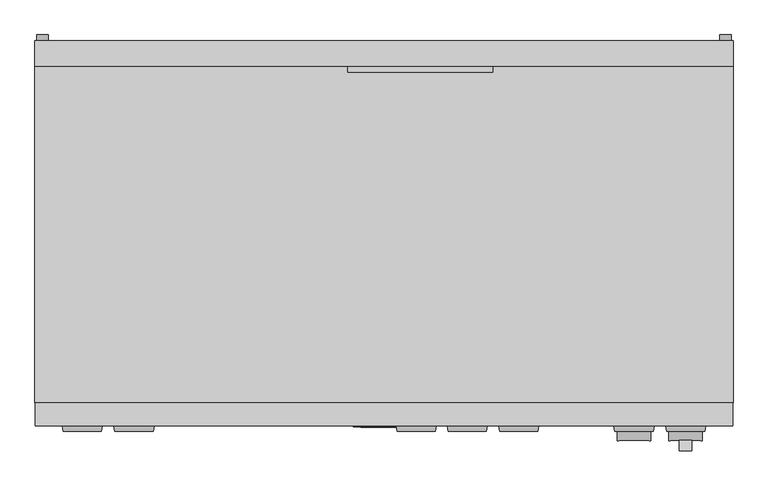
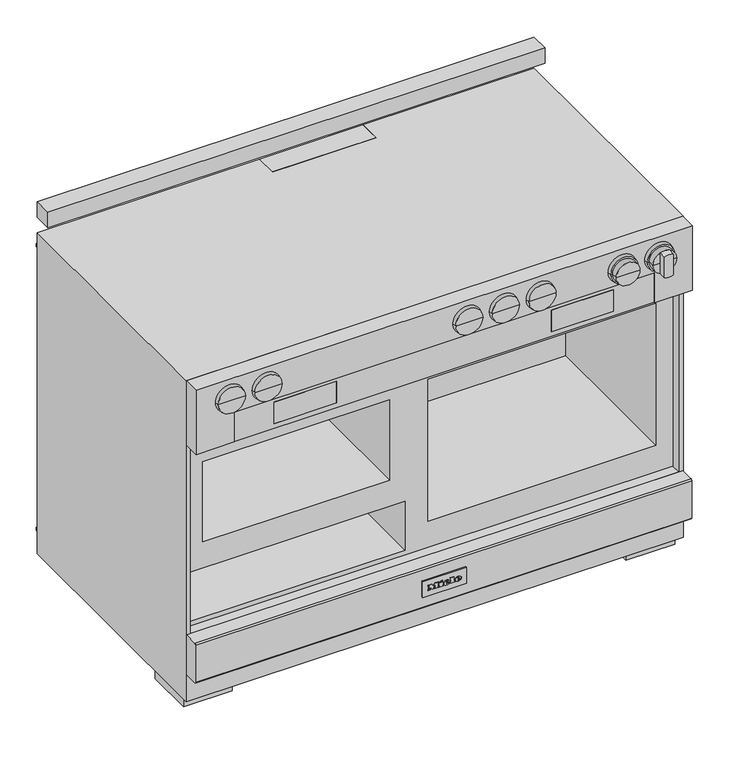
"""IFC4 building model written with IfcOpenShell, lengths in millimetres: proxy geometry, 11791700_USA_HR1956-3G_EDST-CLST : 25195681_USA_11791700_HR1956-3G_EDST-CLST."""

from ifc_helpers import new_model, si_unit, point, frame, frame_2d, origin, origin_with_axes, place, context, project, spatial, polyline, circle_curve, ellipse_curve, trimmed, segment, composite_curve, outline, extrude, faceted_brep, source, transform, mapped, element, save
from ifc_brep_helpers import plane_surface, cylinder_surface, revolved_surface, extruded_surface, advanced_brep


def specialty_equipment_941c495b(model_context):
    return source(origin(), model_context, "Body", "SolidModel", [
        advanced_brep(
        [(436.5, -683.0, 813.0), (465.5, -683.0, 813.0), (407.5, -683.0, 813.0), (407.5, -699.0, 813.0), (465.5, -699.0, 813.0), (436.5, -699.0, 813.0)],
        [
            (0, 1),
            (1, 2, circle_curve(frame((436.5, -683.0, 813.0), z_axis=(0.0, 1.0, 0.0), x_axis=(1.0, 0.0, 0.0)), 29.0)),
            (2, 0),
            (2, 1, circle_curve(frame((436.5, -683.0, 813.0), z_axis=(0.0, 1.0, 0.0), x_axis=(1.0, 0.0, 0.0)), 29.0)),
            (3, 4, circle_curve(frame((436.5, -699.0, 813.0), z_axis=(0.0, -1.0, 0.0), x_axis=(1.0, 0.0, 0.0)), 29.0)),
            (4, 5),
            (5, 3),
            (4, 3, circle_curve(frame((436.5, -699.0, 813.0), z_axis=(0.0, -1.0, 0.0), x_axis=(1.0, 0.0, 0.0)), 29.0)),
            (1, 4),
            (3, 2),
        ],
        [
            plane_surface(frame((436.5, -683.0, 813.0), z_axis=(0.0, 1.0, 0.0), x_axis=(1.0, 0.0, 0.0))),
            plane_surface(frame((436.5, -699.0, 813.0), z_axis=(0.0, -1.0, 0.0), x_axis=(1.0, 0.0, 0.0))),
            cylinder_surface(frame((436.5, 751.3738435, 813.0), z_axis=(0.0, 1.0, 0.0), x_axis=(1.0, 0.0, 0.0)), 29.0),
        ],
        [
            (0, [[1, 2, 3]]),
            (0, [[-3, 4, -1]]),
            (1, [[5, 6, 7]]),
            (1, [[8, -7, -6]]),
            (2, [[-2, 9, -5, 10]]),
            (2, [[-4, -10, -8, -9]]),
        ],
    ),
        extrude(outline(composite_curve([segment(polyline([(786.1671843, 537.5), (839.8328157, 537.5)]), True, "CONTINUOUS"), segment(trimmed(circle_curve(frame_2d((813.0, 526.5)), 29.0), [point((839.8328157, 537.5))], [point((839.8328157, 515.5))], False, "CARTESIAN"), True, "CONTINUOUS"), segment(polyline([(839.8328157, 515.5), (786.1671843, 515.5)]), True, "CONTINUOUS"), segment(trimmed(circle_curve(frame_2d((813.0, 526.5)), 29.0), [point((786.1671843, 515.5))], [point((786.1671843, 537.5))], False, "CARTESIAN"), True, "CONTINUOUS")], self_intersect=False)), frame((0.0, -717.0, 0.0), z_axis=(0.0, 1.0, 0.0), x_axis=(0.0, 0.0, 1.0)), (0.0, 0.0, 1.0), 18.0),
        advanced_brep(
        [(526.5, -683.0, 813.0), (555.5, -683.0, 813.0), (497.5, -683.0, 813.0), (497.5, -699.0, 813.0), (555.5, -699.0, 813.0), (526.5, -699.0, 813.0)],
        [
            (0, 1),
            (1, 2, circle_curve(frame((526.5, -683.0, 813.0), z_axis=(0.0, 1.0, 0.0), x_axis=(1.0, 0.0, 0.0)), 29.0)),
            (2, 0),
            (2, 1, circle_curve(frame((526.5, -683.0, 813.0), z_axis=(0.0, 1.0, 0.0), x_axis=(1.0, 0.0, 0.0)), 29.0)),
            (3, 4, circle_curve(frame((526.5, -699.0, 813.0), z_axis=(0.0, -1.0, 0.0), x_axis=(1.0, 0.0, 0.0)), 29.0)),
            (4, 5),
            (5, 3),
            (4, 3, circle_curve(frame((526.5, -699.0, 813.0), z_axis=(0.0, -1.0, 0.0), x_axis=(1.0, 0.0, 0.0)), 29.0)),
            (1, 4),
            (3, 2),
        ],
        [
            plane_surface(frame((526.5, -683.0, 813.0), z_axis=(0.0, 1.0, 0.0), x_axis=(1.0, 0.0, 0.0))),
            plane_surface(frame((526.5, -699.0, 813.0), z_axis=(0.0, -1.0, 0.0), x_axis=(1.0, 0.0, 0.0))),
            cylinder_surface(frame((526.5, 751.3738435, 813.0), z_axis=(0.0, 1.0, 0.0), x_axis=(1.0, 0.0, 0.0)), 29.0),
        ],
        [
            (0, [[1, 2, 3]]),
            (0, [[-3, 4, -1]]),
            (1, [[5, 6, 7]]),
            (1, [[8, -7, -6]]),
            (2, [[-2, 9, -5, 10]]),
            (2, [[-4, -10, -8, -9]]),
        ],
    ),
        extrude(outline(polyline([(-263.5, -671.7), (-416.5, -671.7), (-416.5, -670.7), (-263.5, -670.7), (-263.5, -671.7)])), frame((0.0, 0.0, 707.0), z_axis=(0.0, 0.0, 1.0), x_axis=(1.0, 0.0, 0.0)), (0.0, 0.0, 1.0), 56.0),
        extrude(outline(polyline([(416.5, -671.7), (263.5, -671.7), (263.5, -670.7), (416.5, -670.7), (416.5, -671.7)])), frame((0.0, 0.0, 707.0), z_axis=(0.0, 0.0, 1.0), x_axis=(1.0, 0.0, 0.0)), (0.0, 0.0, 1.0), 56.0),
        extrude(outline(polyline([(772.0, 515.5), (772.0, -515.5), (695.0, -515.5), (695.0, 515.5), (772.0, 515.5)]), holes=[polyline([(763.0, -263.5), (707.0, -263.5), (707.0, -416.5), (763.0, -416.5), (763.0, -263.5)]), polyline([(763.0, 416.5), (707.0, 416.5), (707.0, 263.5), (763.0, 263.5), (763.0, 416.5)])]), frame((0.0, -671.7, 0.0), z_axis=(0.0, 1.0, 0.0), x_axis=(0.0, 0.0, 1.0)), (0.0, 0.0, 1.0), 5.0),
        faceted_brep([(608.5, -673.0, 862.0), (-608.5, -673.0, 862.0), (-608.5, -673.0, 695.0), (-515.5, -673.0, 695.0), (-515.5, -673.0, 772.0), (515.5, -673.0, 772.0), (515.5, -673.0, 695.0), (608.5, -673.0, 695.0), (608.5, -633.0, 862.0), (608.5, -633.0, 695.0), (-608.5, -633.0, 695.0), (-608.5, -633.0, 862.0), (515.5, -666.7, 695.0), (-515.5, -666.7, 695.0), (515.5, -666.7, 772.0), (-515.5, -666.7, 772.0)], [[[0, 1, 2, 3, 4, 5, 6, 7]], [[8, 9, 10, 11]], [[0, 7, 9, 8]], [[10, 9, 7, 6, 12, 13, 3, 2]], [[2, 1, 11, 10]], [[1, 0, 8, 11]], [[14, 15, 13, 12]], [[14, 12, 6, 5]], [[13, 15, 4, 3]], [[15, 14, 5, 4]]]),
        advanced_brep(
        [(22.7632698, -683.0, 813.0), (89.2367302, -683.0, 813.0), (56.0, -683.0, 813.0), (21.0, -673.0, 813.0), (91.0, -673.0, 813.0), (56.0, -673.0, 813.0)],
        [
            (0, 1, circle_curve(frame((56.0, -683.0, 813.0), z_axis=(0.0, -1.0, 0.0), x_axis=(1.0, 0.0, 0.0)), 33.2367302)),
            (1, 2),
            (2, 0),
            (1, 0, circle_curve(frame((56.0, -683.0, 813.0), z_axis=(0.0, -1.0, 0.0), x_axis=(1.0, 0.0, 0.0)), 33.2367302)),
            (3, 4, circle_curve(frame((56.0, -673.0, 813.0), z_axis=(0.0, -1.0, 0.0), x_axis=(1.0, 0.0, 0.0)), 35.0)),
            (4, 1),
            (0, 3),
            (4, 3, circle_curve(frame((56.0, -673.0, 813.0), z_axis=(0.0, -1.0, 0.0), x_axis=(1.0, 0.0, 0.0)), 35.0)),
            (5, 4),
            (3, 5),
        ],
        [
            plane_surface(frame((56.0, -683.0, 813.0), z_axis=(0.0, -1.0, 0.0), x_axis=(1.0, 0.0, 0.0))),
            revolved_surface(polyline([(89.2367302, -683.0, 813.0), (91.0, -673.0, 813.0)]), (56.0, 751.3738435, 813.0), (0.0, 1.0, 0.0)),
            plane_surface(frame((56.0, -673.0, 813.0), z_axis=(0.0, 1.0, 0.0), x_axis=(1.0, 0.0, 0.0))),
        ],
        [
            (0, [[1, 2, 3]]),
            (0, [[4, -3, -2]]),
            (1, [[5, 6, -1, 7]]),
            (1, [[8, -7, -4, -6]]),
            (2, [[9, -5, 10]]),
            (2, [[-10, -8, -9]]),
        ],
    ),
        advanced_brep(
        [(112.2632698, -683.0, 813.0), (178.7367302, -683.0, 813.0), (145.5, -683.0, 813.0), (110.5, -673.0, 813.0), (180.5, -673.0, 813.0), (145.5, -673.0, 813.0)],
        [
            (0, 1, circle_curve(frame((145.5, -683.0, 813.0), z_axis=(0.0, -1.0, 0.0), x_axis=(1.0, 0.0, 0.0)), 33.2367302)),
            (1, 2),
            (2, 0),
            (1, 0, circle_curve(frame((145.5, -683.0, 813.0), z_axis=(0.0, -1.0, 0.0), x_axis=(1.0, 0.0, 0.0)), 33.2367302)),
            (3, 4, circle_curve(frame((145.5, -673.0, 813.0), z_axis=(0.0, -1.0, 0.0), x_axis=(1.0, 0.0, 0.0)), 35.0)),
            (4, 1),
            (0, 3),
            (4, 3, circle_curve(frame((145.5, -673.0, 813.0), z_axis=(0.0, -1.0, 0.0), x_axis=(1.0, 0.0, 0.0)), 35.0)),
            (5, 4),
            (3, 5),
        ],
        [
            plane_surface(frame((145.5, -683.0, 813.0), z_axis=(0.0, -1.0, 0.0), x_axis=(1.0, 0.0, 0.0))),
            revolved_surface(polyline([(178.7367302, -683.0, 813.0), (180.5, -673.0, 813.0)]), (145.5, 751.3738435, 813.0), (0.0, 1.0, 0.0)),
            plane_surface(frame((145.5, -673.0, 813.0), z_axis=(0.0, 1.0, 0.0), x_axis=(1.0, 0.0, 0.0))),
        ],
        [
            (0, [[1, 2, 3]]),
            (0, [[4, -3, -2]]),
            (1, [[5, 6, -1, 7]]),
            (1, [[8, -7, -4, -6]]),
            (2, [[9, -5, 10]]),
            (2, [[-10, -8, -9]]),
        ],
    ),
        advanced_brep(
        [(-559.7367302, -683.0, 813.0), (-493.2632698, -683.0, 813.0), (-526.5, -683.0, 813.0), (-561.5, -673.0, 813.0), (-491.5, -673.0, 813.0), (-526.5, -673.0, 813.0)],
        [
            (0, 1, circle_curve(frame((-526.5, -683.0, 813.0), z_axis=(0.0, -1.0, 0.0), x_axis=(1.0, 0.0, 0.0)), 33.2367302)),
            (1, 2),
            (2, 0),
            (1, 0, circle_curve(frame((-526.5, -683.0, 813.0), z_axis=(0.0, -1.0, 0.0), x_axis=(1.0, 0.0, 0.0)), 33.2367302)),
            (3, 4, circle_curve(frame((-526.5, -673.0, 813.0), z_axis=(0.0, -1.0, 0.0), x_axis=(1.0, 0.0, 0.0)), 35.0)),
            (4, 1),
            (0, 3),
            (4, 3, circle_curve(frame((-526.5, -673.0, 813.0), z_axis=(0.0, -1.0, 0.0), x_axis=(1.0, 0.0, 0.0)), 35.0)),
            (5, 4),
            (3, 5),
        ],
        [
            plane_surface(frame((-526.5, -683.0, 813.0), z_axis=(0.0, -1.0, 0.0), x_axis=(1.0, 0.0, 0.0))),
            revolved_surface(polyline([(-493.2632698, -683.0, 813.0), (-491.5, -673.0, 813.0)]), (-526.5, 751.3738435, 813.0), (0.0, 1.0, 0.0)),
            plane_surface(frame((-526.5, -673.0, 813.0), z_axis=(0.0, 1.0, 0.0), x_axis=(1.0, 0.0, 0.0))),
        ],
        [
            (0, [[1, 2, 3]]),
            (0, [[4, -3, -2]]),
            (1, [[5, 6, -1, 7]]),
            (1, [[8, -7, -4, -6]]),
            (2, [[9, -5, 10]]),
            (2, [[-10, -8, -9]]),
        ],
    ),
        advanced_brep(
        [(-469.7367302, -683.0, 813.0), (-403.2632698, -683.0, 813.0), (-436.5, -683.0, 813.0), (-471.5, -673.0, 813.0), (-401.5, -673.0, 813.0), (-436.5, -673.0, 813.0)],
        [
            (0, 1, circle_curve(frame((-436.5, -683.0, 813.0), z_axis=(0.0, -1.0, 0.0), x_axis=(1.0, 0.0, 0.0)), 33.2367302)),
            (1, 2),
            (2, 0),
            (1, 0, circle_curve(frame((-436.5, -683.0, 813.0), z_axis=(0.0, -1.0, 0.0), x_axis=(1.0, 0.0, 0.0)), 33.2367302)),
            (3, 4, circle_curve(frame((-436.5, -673.0, 813.0), z_axis=(0.0, -1.0, 0.0), x_axis=(1.0, 0.0, 0.0)), 35.0)),
            (4, 1),
            (0, 3),
            (4, 3, circle_curve(frame((-436.5, -673.0, 813.0), z_axis=(0.0, -1.0, 0.0), x_axis=(1.0, 0.0, 0.0)), 35.0)),
            (5, 4),
            (3, 5),
        ],
        [
            plane_surface(frame((-436.5, -683.0, 813.0), z_axis=(0.0, -1.0, 0.0), x_axis=(1.0, 0.0, 0.0))),
            revolved_surface(polyline([(-403.2632698, -683.0, 813.0), (-401.5, -673.0, 813.0)]), (-436.5, 751.3738435, 813.0), (0.0, 1.0, 0.0)),
            plane_surface(frame((-436.5, -673.0, 813.0), z_axis=(0.0, 1.0, 0.0), x_axis=(1.0, 0.0, 0.0))),
        ],
        [
            (0, [[1, 2, 3]]),
            (0, [[4, -3, -2]]),
            (1, [[5, 6, -1, 7]]),
            (1, [[8, -7, -4, -6]]),
            (2, [[9, -5, 10]]),
            (2, [[-10, -8, -9]]),
        ],
    ),
        advanced_brep(
        [(202.2632698, -683.0, 813.0), (268.7367302, -683.0, 813.0), (235.5, -683.0, 813.0), (200.5, -673.0, 813.0), (270.5, -673.0, 813.0), (235.5, -673.0, 813.0)],
        [
            (0, 1, circle_curve(frame((235.5, -683.0, 813.0), z_axis=(0.0, -1.0, 0.0), x_axis=(1.0, 0.0, 0.0)), 33.2367302)),
            (1, 2),
            (2, 0),
            (1, 0, circle_curve(frame((235.5, -683.0, 813.0), z_axis=(0.0, -1.0, 0.0), x_axis=(1.0, 0.0, 0.0)), 33.2367302)),
            (3, 4, circle_curve(frame((235.5, -673.0, 813.0), z_axis=(0.0, -1.0, 0.0), x_axis=(1.0, 0.0, 0.0)), 35.0)),
            (4, 1),
            (0, 3),
            (4, 3, circle_curve(frame((235.5, -673.0, 813.0), z_axis=(0.0, -1.0, 0.0), x_axis=(1.0, 0.0, 0.0)), 35.0)),
            (5, 4),
            (3, 5),
        ],
        [
            plane_surface(frame((235.5, -683.0, 813.0), z_axis=(0.0, -1.0, 0.0), x_axis=(1.0, 0.0, 0.0))),
            revolved_surface(polyline([(268.7367302, -683.0, 813.0), (270.5, -673.0, 813.0)]), (235.5, 751.3738435, 813.0), (0.0, 1.0, 0.0)),
            plane_surface(frame((235.5, -673.0, 813.0), z_axis=(0.0, 1.0, 0.0), x_axis=(1.0, 0.0, 0.0))),
        ],
        [
            (0, [[1, 2, 3]]),
            (0, [[4, -3, -2]]),
            (1, [[5, 6, -1, 7]]),
            (1, [[8, -7, -4, -6]]),
            (2, [[9, -5, 10]]),
            (2, [[-10, -8, -9]]),
        ],
    ),
        advanced_brep(
        [(403.2632698, -683.0, 813.0), (469.7367302, -683.0, 813.0), (436.5, -683.0, 813.0), (401.5, -673.0, 813.0), (471.5, -673.0, 813.0), (436.5, -673.0, 813.0)],
        [
            (0, 1, circle_curve(frame((436.5, -683.0, 813.0), z_axis=(0.0, -1.0, 0.0), x_axis=(1.0, 0.0, 0.0)), 33.2367302)),
            (1, 2),
            (2, 0),
            (1, 0, circle_curve(frame((436.5, -683.0, 813.0), z_axis=(0.0, -1.0, 0.0), x_axis=(1.0, 0.0, 0.0)), 33.2367302)),
            (3, 4, circle_curve(frame((436.5, -673.0, 813.0), z_axis=(0.0, -1.0, 0.0), x_axis=(1.0, 0.0, 0.0)), 35.0)),
            (4, 1),
            (0, 3),
            (4, 3, circle_curve(frame((436.5, -673.0, 813.0), z_axis=(0.0, -1.0, 0.0), x_axis=(1.0, 0.0, 0.0)), 35.0)),
            (5, 4),
            (3, 5),
        ],
        [
            plane_surface(frame((436.5, -683.0, 813.0), z_axis=(0.0, -1.0, 0.0), x_axis=(1.0, 0.0, 0.0))),
            revolved_surface(polyline([(469.7367302, -683.0, 813.0), (471.5, -673.0, 813.0)]), (436.5, 751.3738435, 813.0), (0.0, 1.0, 0.0)),
            plane_surface(frame((436.5, -673.0, 813.0), z_axis=(0.0, 1.0, 0.0), x_axis=(1.0, 0.0, 0.0))),
        ],
        [
            (0, [[1, 2, 3]]),
            (0, [[4, -3, -2]]),
            (1, [[5, 6, -1, 7]]),
            (1, [[8, -7, -4, -6]]),
            (2, [[9, -5, 10]]),
            (2, [[-10, -8, -9]]),
        ],
    ),
        advanced_brep(
        [(493.2632698, -683.0, 813.0), (559.7367302, -683.0, 813.0), (526.5, -683.0, 813.0), (491.5, -673.0, 813.0), (561.5, -673.0, 813.0), (526.5, -673.0, 813.0)],
        [
            (0, 1, circle_curve(frame((526.5, -683.0, 813.0), z_axis=(0.0, -1.0, 0.0), x_axis=(1.0, 0.0, 0.0)), 33.2367302)),
            (1, 2),
            (2, 0),
            (1, 0, circle_curve(frame((526.5, -683.0, 813.0), z_axis=(0.0, -1.0, 0.0), x_axis=(1.0, 0.0, 0.0)), 33.2367302)),
            (3, 4, circle_curve(frame((526.5, -673.0, 813.0), z_axis=(0.0, -1.0, 0.0), x_axis=(1.0, 0.0, 0.0)), 35.0)),
            (4, 1),
            (0, 3),
            (4, 3, circle_curve(frame((526.5, -673.0, 813.0), z_axis=(0.0, -1.0, 0.0), x_axis=(1.0, 0.0, 0.0)), 35.0)),
            (5, 4),
            (3, 5),
        ],
        [
            plane_surface(frame((526.5, -683.0, 813.0), z_axis=(0.0, -1.0, 0.0), x_axis=(1.0, 0.0, 0.0))),
            revolved_surface(polyline([(559.7367302, -683.0, 813.0), (561.5, -673.0, 813.0)]), (526.5, 751.3738435, 813.0), (0.0, 1.0, 0.0)),
            plane_surface(frame((526.5, -673.0, 813.0), z_axis=(0.0, 1.0, 0.0), x_axis=(1.0, 0.0, 0.0))),
        ],
        [
            (0, [[1, 2, 3]]),
            (0, [[4, -3, -2]]),
            (1, [[5, 6, -1, 7]]),
            (1, [[8, -7, -4, -6]]),
            (2, [[9, -5, 10]]),
            (2, [[-10, -8, -9]]),
        ],
    ),
        extrude(outline(composite_curve([segment(trimmed(circle_curve(frame_2d((822.0, 596.5)), 10.0), [point((822.0, 606.5))], [point((822.0, 586.5))], False, "CARTESIAN"), True, "CONTINUOUS"), segment(trimmed(circle_curve(frame_2d((822.0, 596.5)), 10.0), [point((822.0, 586.5))], [point((822.0, 606.5))], False, "CARTESIAN"), True, "CONTINUOUS")], self_intersect=False)), frame((0.0, 0.0, 0.0), z_axis=(0.0, 1.0, 0.0), x_axis=(0.0, 0.0, 1.0)), (0.0, 0.0, 1.0), 10.0),
        extrude(outline(composite_curve([segment(trimmed(circle_curve(frame_2d((87.0, 596.5)), 10.0), [point((87.0, 606.5))], [point((87.0, 586.5))], False, "CARTESIAN"), True, "CONTINUOUS"), segment(trimmed(circle_curve(frame_2d((87.0, 596.5)), 10.0), [point((87.0, 586.5))], [point((87.0, 606.5))], False, "CARTESIAN"), True, "CONTINUOUS")], self_intersect=False)), frame((0.0, 0.0, 0.0), z_axis=(0.0, 1.0, 0.0), x_axis=(0.0, 0.0, 1.0)), (0.0, 0.0, 1.0), 10.0),
        extrude(outline(composite_curve([segment(trimmed(circle_curve(frame_2d((822.0, -596.5)), 10.0), [point((822.0, -586.5))], [point((822.0, -606.5))], False, "CARTESIAN"), True, "CONTINUOUS"), segment(trimmed(circle_curve(frame_2d((822.0, -596.5)), 10.0), [point((822.0, -606.5))], [point((822.0, -586.5))], False, "CARTESIAN"), True, "CONTINUOUS")], self_intersect=False)), frame((0.0, 0.0, 0.0), z_axis=(0.0, 1.0, 0.0), x_axis=(0.0, 0.0, 1.0)), (0.0, 0.0, 1.0), 10.0),
        extrude(outline(composite_curve([segment(trimmed(circle_curve(frame_2d((87.0, -596.5)), 10.0), [point((87.0, -586.5))], [point((87.0, -606.5))], False, "CARTESIAN"), True, "CONTINUOUS"), segment(trimmed(circle_curve(frame_2d((87.0, -596.5)), 10.0), [point((87.0, -606.5))], [point((87.0, -586.5))], False, "CARTESIAN"), True, "CONTINUOUS")], self_intersect=False)), frame((0.0, 0.0, 0.0), z_axis=(0.0, 1.0, 0.0), x_axis=(0.0, 0.0, 1.0)), (0.0, 0.0, 1.0), 10.0),
        extrude(outline(polyline([(-63.5, 0.0), (189.5, 0.0), (189.5, -55.0), (-63.5, -55.0), (-63.5, 0.0)])), frame((0.0, 0.0, 778.0), z_axis=(0.0, 0.0, 1.0), x_axis=(1.0, 0.0, 0.0)), (0.0, 0.0, 1.0), 84.0),
        extrude(outline(composite_curve([segment(trimmed(circle_curve(frame_2d((-152.0, 40.0)), 40.0), [point((-113.2701665, 30.0))], [point((-190.7298335, 30.0))], False, "CARTESIAN"), True, "CONTINUOUS"), segment(polyline([(-190.7298335, 30.0), (-113.2701665, 30.0)]), True, "CONTINUOUS")], self_intersect=False)), frame((-462.5, 0.0, 0.0), z_axis=(1.0, 0.0, 0.0), x_axis=(0.0, 1.0, 0.0)), (0.0, 0.0, 1.0), 28.0),
        extrude(outline(composite_curve([segment(polyline([(-518.5009008, -37.0), (-519.7635363, -37.0), (-519.5191787, -35.9415709), (-519.3778726, -31.1117735)]), True, "CONTINUOUS"), segment(trimmed(circle_curve(frame_2d((-517.887549, -31.1553762)), 1.4909613), [point((-519.3778726, -31.1117735))], [point((-518.1381402, -29.6856246))], False, "CARTESIAN"), True, "CONTINUOUS"), segment(trimmed(circle_curve(frame_2d((-516.6175682, -34.7832301)), 5.3195602), [point((-518.1381402, -29.6856246))], [point((-514.940667, -29.7348914))], False, "CARTESIAN"), True, "CONTINUOUS"), segment(polyline([(-514.940667, -29.7348914), (-513.8643767, -30.4338425), (-513.3177226, -31.6616478), (-514.5710839, -31.8155412), (-515.1628147, -30.9704619)]), True, "CONTINUOUS"), segment(trimmed(circle_curve(frame_2d((-516.389909, -33.6278559)), 2.9270297), [point((-515.1628147, -30.9704619))], [point((-517.835883, -31.0829271))], True, "CARTESIAN"), True, "CONTINUOUS"), segment(polyline([(-517.835883, -31.0829271), (-518.1819155, -32.289686), (-514.9250607, -32.9227545)]), True, "CONTINUOUS"), segment(trimmed(circle_curve(frame_2d((-515.3373847, -35.0439776)), 2.1609254), [point((-514.9250607, -32.9227545))], [point((-513.7872437, -36.5495212))], False, "CARTESIAN"), True, "CONTINUOUS"), segment(trimmed(circle_curve(frame_2d((-515.7230106, -33.6941434)), 3.4496922), [point((-513.7872437, -36.5495212))], [point((-516.9810512, -36.9062626))], False, "CARTESIAN"), True, "CONTINUOUS"), segment(polyline([(-516.9810512, -36.9062626), (-518.1943945, -36.0566705), (-518.5009008, -37.0)]), True, "CONTINUOUS")], self_intersect=False), holes=[composite_curve([segment(polyline([(-518.1808047, -33.7241112), (-517.9778117, -34.8753414), (-517.1808418, -35.5929363), (-515.8846505, -35.8921857)]), True, "CONTINUOUS"), segment(trimmed(circle_curve(frame_2d((-515.6641539, -34.9371101)), 0.980198), [point((-515.8846505, -35.8921857))], [point((-515.0826105, -34.148063))], True, "CARTESIAN"), True, "CONTINUOUS"), segment(polyline([(-515.0826105, -34.148063), (-516.183896, -33.9339948), (-518.1808047, -33.7241112)]), True, "CONTINUOUS")], self_intersect=False)]), frame((0.0, 0.0, 753.0), z_axis=(0.0, 0.0, 1.0), x_axis=(1.0, 0.0, 0.0)), (0.0, 0.0, 1.0), 1.0),
        extrude(outline(composite_curve([segment(polyline([(-521.9581842, -34.6489066), (-520.702206, -34.8031213), (-521.6593436, -36.5606642)]), True, "CONTINUOUS"), segment(trimmed(circle_curve(frame_2d((-523.8057471, -33.6354063)), 3.6282478), [point((-521.6593436, -36.5606642))], [point((-525.3962663, -36.8964538))], False, "CARTESIAN"), True, "CONTINUOUS"), segment(trimmed(circle_curve(frame_2d((-524.2731504, -34.593725)), 2.5620205), [point((-525.3962663, -36.8964538))], [point((-526.82893, -34.7724425))], False, "CARTESIAN"), True, "CONTINUOUS"), segment(trimmed(circle_curve(frame_2d((-525.117737, -34.6527843)), 1.7153715), [point((-526.82893, -34.7724425))], [point((-525.647816, -33.021369))], False, "CARTESIAN"), True, "CONTINUOUS"), segment(polyline([(-525.647816, -33.021369), (-523.8069947, -32.4232499), (-522.487673, -30.9770867)]), True, "CONTINUOUS"), segment(trimmed(circle_curve(frame_2d((-523.6408399, -33.351197)), 2.6393548), [point((-522.487673, -30.9770867))], [point((-524.7940069, -30.9770867))], True, "CARTESIAN"), True, "CONTINUOUS"), segment(polyline([(-524.7940069, -30.9770867), (-525.2553884, -31.6611129), (-526.5084996, -31.5072502), (-526.0756304, -30.3795875)]), True, "CONTINUOUS"), segment(trimmed(circle_curve(frame_2d((-523.4527143, -33.6576461)), 4.1982564), [point((-526.0756304, -30.3795875))], [point((-523.5505395, -29.4605295))], False, "CARTESIAN"), True, "CONTINUOUS"), segment(trimmed(circle_curve(frame_2d((-523.4805679, -32.4626064)), 3.0028922), [point((-523.5505395, -29.4605295))], [point((-521.0718203, -30.6694816))], False, "CARTESIAN"), True, "CONTINUOUS"), segment(trimmed(circle_curve(frame_2d((-522.9380028, -31.5301363)), 2.0550823), [point((-521.0718203, -30.6694816))], [point((-521.9341096, -33.323335))], False, "CARTESIAN"), True, "CONTINUOUS"), segment(polyline([(-521.9341096, -33.323335), (-523.8494535, -33.9828408), (-525.5597255, -34.9076387), (-525.1768706, -35.6156702)]), True, "CONTINUOUS"), segment(trimmed(circle_curve(frame_2d((-523.8695779, -32.6018954)), 3.2850956), [point((-525.1768706, -35.6156702))], [point((-522.5622852, -35.6156702))], True, "CARTESIAN"), True, "CONTINUOUS"), segment(polyline([(-522.5622852, -35.6156702), (-521.9581842, -34.6489066)]), True, "CONTINUOUS")], self_intersect=False)), frame((0.0, 0.0, 753.0), z_axis=(0.0, 0.0, 1.0), x_axis=(1.0, 0.0, 0.0)), (0.0, 0.0, 1.0), 1.0),
        extrude(outline(composite_curve([segment(polyline([(-511.5941465, -31.8216074), (-507.5193946, -31.8216074), (-507.5193946, -33.0727848), (-510.3300756, -33.0727848), (-510.3300756, -34.8953779), (-509.0547934, -35.5734575), (-507.3554891, -35.8730907)]), True, "CONTINUOUS"), segment(trimmed(circle_curve(frame_2d((-507.2763582, -32.1835188)), 3.6904203), [point((-507.3554891, -35.8730907))], [point((-503.5917956, -31.975672))], True, "CARTESIAN"), True, "CONTINUOUS"), segment(trimmed(circle_curve(frame_2d((-507.7742118, -32.2116028)), 4.1890654), [point((-503.5917956, -31.975672))], [point((-507.3924604, -28.0399683))], True, "CARTESIAN"), True, "CONTINUOUS"), segment(trimmed(circle_curve(frame_2d((-507.6434541, -30.7827322)), 2.7542243), [point((-507.3924604, -28.0399683))], [point((-509.7311401, -28.9862582))], True, "CARTESIAN"), True, "CONTINUOUS"), segment(polyline([(-509.7311401, -28.9862582), (-510.2913432, -30.1348449), (-511.4545959, -29.808521), (-510.7222817, -28.1459412)]), True, "CONTINUOUS"), segment(trimmed(circle_curve(frame_2d((-507.5056573, -31.3038983)), 4.5077007), [point((-510.7222817, -28.1459412))], [point((-507.3478593, -26.7989604))], False, "CARTESIAN"), True, "CONTINUOUS"), segment(trimmed(circle_curve(frame_2d((-507.5297107, -32.0029797)), 5.2071956), [point((-507.3478593, -26.7989604))], [point((-502.3225151, -32.0029797))], False, "CARTESIAN"), True, "CONTINUOUS"), segment(trimmed(circle_curve(frame_2d((-507.5187023, -31.9634409)), 5.1963376), [point((-502.3225151, -32.0029797))], [point((-507.5187023, -37.1597785))], False, "CARTESIAN"), True, "CONTINUOUS"), segment(polyline([(-507.5187023, -37.1597785), (-509.5821579, -36.7823822), (-511.5941465, -35.5734575), (-511.5941465, -31.8216074)]), True, "CONTINUOUS")], self_intersect=False)), frame((0.0, 0.0, 753.0), z_axis=(0.0, 0.0, 1.0), x_axis=(1.0, 0.0, 0.0)), (0.0, 0.0, 1.0), 1.0),
        extrude(outline(composite_curve([segment(polyline([(-633.0, 203.0), (-633.0, 100.0), (-668.0, 100.0)]), True, "CONTINUOUS"), segment(trimmed(circle_curve(frame_2d((-668.0, 103.0)), 3.0), [point((-668.0, 100.0))], [point((-671.0, 103.0))], False, "CARTESIAN"), True, "CONTINUOUS"), segment(polyline([(-671.0, 103.0), (-671.0, 200.0)]), True, "CONTINUOUS"), segment(trimmed(circle_curve(frame_2d((-668.0, 200.0)), 3.0), [point((-671.0, 200.0))], [point((-668.0, 203.0))], False, "CARTESIAN"), True, "CONTINUOUS"), segment(polyline([(-668.0, 203.0), (-633.0, 203.0)]), True, "CONTINUOUS")], self_intersect=False)), frame((-608.5, 0.0, 0.0), z_axis=(1.0, 0.0, 0.0), x_axis=(0.0, 1.0, 0.0)), (0.0, 0.0, 1.0), 1217.0),
        extrude(outline(polyline([(424.9261097, -43.2846028), (417.6553153, -43.2846028), (417.6553153, -42.0259878), (423.6324687, -42.0259878), (423.6324687, -39.0398896), (417.9699511, -39.0398896), (417.9699511, -37.7868997), (423.6324687, -37.7868997), (423.6324687, -34.484481), (417.5234692, -34.484481), (417.5234692, -33.223126), (424.9261097, -33.223126), (424.9261097, -43.2846028)])), frame((0.0, 0.0, 74.0), z_axis=(0.0, 0.0, 1.0), x_axis=(1.0, 0.0, 0.0)), (0.0, 0.0, 1.0), 1.0),
        extrude(outline(polyline([(415.5939455, -43.2781045), (409.4083542, -43.2781045), (409.4083542, -42.0259878), (414.4083542, -42.0259878), (414.4083542, -33.223126), (415.5939455, -33.223126), (415.5939455, -43.2781045)])), frame((0.0, 0.0, 74.0), z_axis=(0.0, 0.0, 1.0), x_axis=(1.0, 0.0, 0.0)), (0.0, 0.0, 1.0), 1.0),
        extrude(outline(composite_curve([segment(trimmed(circle_curve(frame_2d((417.5, -39.0)), 7.5), [point((417.5, -46.5))], [point((417.5, -31.5))], False, "CARTESIAN"), True, "CONTINUOUS"), segment(trimmed(circle_curve(frame_2d((417.5, -39.0)), 7.5), [point((417.5, -31.5))], [point((417.5, -46.5))], False, "CARTESIAN"), True, "CONTINUOUS")], self_intersect=False)), frame((0.0, 0.0, 75.0), z_axis=(0.0, 0.0, 1.0), x_axis=(1.0, 0.0, 0.0)), (0.0, 0.0, 1.0), 30.0),
        extrude(outline(composite_curve([segment(trimmed(circle_curve(frame_2d((-514.5, -32.0)), 7.5), [point((-522.0, -32.0))], [point((-507.0, -32.0))], False, "CARTESIAN"), True, "CONTINUOUS"), segment(trimmed(circle_curve(frame_2d((-514.5, -32.0)), 7.5), [point((-507.0, -32.0))], [point((-522.0, -32.0))], False, "CARTESIAN"), True, "CONTINUOUS")], self_intersect=False)), frame((0.0, 0.0, 754.0), z_axis=(0.0, 0.0, 1.0), x_axis=(1.0, 0.0, 0.0)), (0.0, 0.0, 1.0), 30.0),
        extrude(outline(polyline([(755.9900117, -20.0376107), (766.0405487, -17.3032463), (766.0405487, -18.6010309), (757.3952189, -20.6941056), (766.0411296, -23.1946617), (766.0411296, -25.0615338), (757.4117226, -27.5845612), (766.0419182, -29.665026), (766.0419182, -30.9626989), (755.9984871, -28.2244126), (755.9984871, -26.8735976), (764.8308623, -24.1286268), (755.9900117, -21.5716905), (755.9900117, -20.0376107)])), frame((0.0, -25.0, 0.0), z_axis=(0.0, 1.0, 0.0), x_axis=(0.0, 0.0, 1.0)), (0.0, 0.0, 1.0), 1.0),
        extrude(outline(polyline([(756.0, -8.9829639), (766.0509015, -8.9829639), (766.0509015, -10.2409127), (761.1386151, -10.2409127), (766.0475587, -15.3904554), (766.0475587, -17.1455728), (761.9164775, -12.8179994), (756.0, -17.3019347), (756.0, -15.7701694), (761.0664133, -11.9304743), (759.4465471, -10.2392234), (756.0, -10.2392234), (756.0, -8.9829639)])), frame((0.0, -25.0, 0.0), z_axis=(0.0, 1.0, 0.0), x_axis=(0.0, 0.0, 1.0)), (0.0, 0.0, 1.0), 1.0),
        extrude(outline(composite_curve([segment(trimmed(circle_curve(frame_2d((761.0, -19.5)), 7.5), [point((761.0, -12.0))], [point((761.0, -27.0))], False, "CARTESIAN"), True, "CONTINUOUS"), segment(trimmed(circle_curve(frame_2d((761.0, -19.5)), 7.5), [point((761.0, -27.0))], [point((761.0, -12.0))], False, "CARTESIAN"), True, "CONTINUOUS")], self_intersect=False)), frame((0.0, -55.0, 0.0), z_axis=(0.0, 1.0, 0.0), x_axis=(0.0, 0.0, 1.0)), (0.0, 0.0, 1.0), 30.0),
        faceted_brep([(-609.5, 0.0, 862.0), (-609.5, -633.0, 862.0), (609.5, -633.0, 862.0), (609.5, 0.0, 862.0), (189.5, 0.0, 862.0), (189.5, -55.0, 862.0), (-63.5, -55.0, 862.0), (-63.5, 0.0, 862.0), (609.5, 0.0, 30.0), (609.5, -633.0, 30.0), (-609.5, -633.0, 30.0), (-609.5, 0.0, 30.0), (-598.5, 0.0, 30.0), (-598.5, -77.0, 30.0), (598.5, -77.0, 30.0), (598.5, 0.0, 30.0), (598.5, 0.0, 105.0), (189.5, 0.0, 105.0), (-63.5, 0.0, 105.0), (-459.5, 0.0, 105.0), (-459.5, 0.0, 784.0), (-547.5, 0.0, 784.0), (-547.5, 0.0, 105.0), (-598.5, 0.0, 105.0), (598.5, -633.0, 695.0), (598.5, -633.0, 203.0), (-598.5, -633.0, 203.0), (-598.5, -633.0, 695.0), (598.5, -608.0, 695.0), (-598.5, -608.0, 695.0), (-598.5, -608.0, 203.0), (598.5, -608.0, 203.0), (557.5, -608.0, 639.0), (557.5, -608.0, 271.0), (-2.5, -608.0, 271.0), (-2.5, -608.0, 639.0), (-58.5, -608.0, 342.0), (-58.5, -608.0, 215.0), (-592.5, -608.0, 215.0), (-592.5, -608.0, 342.0), (-96.5, -608.0, 618.0), (-96.5, -608.0, 410.0), (-554.5, -608.0, 410.0), (-554.5, -608.0, 618.0), (557.5, -224.0, 639.0), (-2.5, -224.0, 639.0), (-2.5, -224.0, 271.0), (557.5, -224.0, 271.0), (-96.5, -235.0, 618.0), (-554.5, -235.0, 618.0), (-554.5, -235.0, 410.0), (-96.5, -235.0, 410.0), (-58.5, -95.0, 342.0), (-592.5, -95.0, 342.0), (-592.5, -95.0, 215.0), (-58.5, -95.0, 215.0), (-598.5, -77.0, 105.0), (598.5, -77.0, 105.0), (-547.5, -55.0, 105.0), (-459.5, -55.0, 105.0), (-63.5, -55.0, 105.0), (189.5, -55.0, 105.0), (-547.5, -55.0, 784.0), (-459.5, -55.0, 784.0)], [[[0, 1, 2, 3, 4, 5, 6, 7]], [[8, 9, 10, 11, 12, 13, 14, 15]], [[3, 8, 15, 16, 17, 4]], [[11, 0, 7, 18, 19, 20, 21, 22, 23, 12]], [[1, 0, 11, 10]], [[2, 1, 10, 9], [24, 25, 26, 27]], [[3, 2, 9, 8]], [[28, 29, 30, 31], [32, 33, 34, 35], [36, 37, 38, 39], [40, 41, 42, 43]], [[28, 31, 25, 24]], [[31, 30, 26, 25]], [[30, 29, 27, 26]], [[29, 28, 24, 27]], [[44, 45, 46, 47]], [[44, 47, 33, 32]], [[47, 46, 34, 33]], [[46, 45, 35, 34]], [[45, 44, 32, 35]], [[48, 49, 50, 51]], [[51, 50, 42, 41]], [[50, 49, 43, 42]], [[49, 48, 40, 43]], [[52, 53, 54, 55]], [[52, 55, 37, 36]], [[55, 54, 38, 37]], [[54, 53, 39, 38]], [[53, 52, 36, 39]], [[56, 57, 14, 13]], [[57, 56, 23, 22, 58, 59, 19, 18, 60, 61, 17, 16]], [[57, 16, 15, 14]], [[23, 56, 13, 12]], [[62, 63, 59, 58]], [[5, 61, 60, 6]], [[6, 60, 18, 7]], [[63, 62, 21, 20]], [[63, 20, 19, 59]], [[21, 62, 58, 22]], [[48, 51, 41, 40]], [[61, 5, 4, 17]]]),
        extrude(outline(composite_curve([segment(trimmed(circle_curve(frame_2d((-152.0, 40.0)), 40.0), [point((-113.2701665, 30.0))], [point((-190.7298335, 30.0))], False, "CARTESIAN"), True, "CONTINUOUS"), segment(polyline([(-190.7298335, 30.0), (-113.2701665, 30.0)]), True, "CONTINUOUS")], self_intersect=False)), frame((434.5, 0.0, 0.0), z_axis=(1.0, 0.0, 0.0), x_axis=(0.0, 1.0, 0.0)), (0.0, 0.0, 1.0), 28.0),
        extrude(outline(polyline([(-482.5, -489.0), (-482.5, -609.0), (-602.5, -609.0), (-602.5, -489.0), (-482.5, -489.0)])), origin_with_axes(), (0.0, 0.0, 1.0), 30.0),
        extrude(outline(polyline([(602.5, -489.0), (602.5, -609.0), (482.5, -609.0), (482.5, -489.0), (602.5, -489.0)])), origin_with_axes(), (0.0, 0.0, 1.0), 30.0),
        advanced_brep(
        [(32.17, -676.0, 148.1995), (32.17, -676.0, 149.563), (41.2015, -676.0, 149.563), (25.4875, -676.0, 149.563), (29.2, -676.0, 145.0), (40.972, -676.0, 148.1995), (36.895, -676.0, 148.1995), (33.682, -676.0, 146.6875), (32.17, -676.0, 151.291), (32.17, -676.0, 152.7625), (34.4785, -676.0, 152.7625), (34.4785, -676.0, 151.291), (32.17, -675.0, 148.1995), (33.682, -675.0, 146.6875), (36.895, -675.0, 148.1995), (40.972, -675.0, 148.1995), (29.2, -675.0, 145.0), (25.4875, -675.0, 149.563), (41.2015, -675.0, 149.563), (32.17, -675.0, 149.563), (32.17, -675.0, 151.291), (34.4785, -675.0, 151.291), (34.4785, -675.0, 152.7625), (32.17, -675.0, 152.7625)],
        [
            (0, 1),
            (1, 2),
            (2, 3, ellipse_curve(frame((33.3445, -676.0, 149.563), z_axis=(0.0, -1.0, 0.0), x_axis=(-1.0, 0.0, 0.0)), 7.857, 6.4935)),
            (3, 4, circle_curve(frame((30.7120736, -676.0, 150.022), z_axis=(0.0, -1.0, 0.0), x_axis=(0.0, 0.0, -1.0)), 5.2446974)),
            (4, 5, circle_curve(frame((33.1872142, -676.0, 153.586), z_axis=(0.0, -1.0, 0.0), x_axis=(0.0, 0.0, -1.0)), 9.46664)),
            (5, 6),
            (6, 7, circle_curve(frame((34.3419118, -676.0, 149.455), z_axis=(0.0, 1.0, 0.0), x_axis=(0.0, 0.0, -1.0)), 2.8450905)),
            (7, 0, circle_curve(frame((33.682, -676.0, 148.1995), z_axis=(0.0, 1.0, 0.0), x_axis=(0.0, 0.0, -1.0)), 1.512)),
            (8, 9),
            (9, 10, circle_curve(frame((33.32425, -676.0, 152.7625), z_axis=(0.0, 1.0, 0.0), x_axis=(0.0, 0.0, -1.0)), 1.15425)),
            (10, 11),
            (11, 8),
            (12, 13, circle_curve(frame((33.682, -675.0, 148.1995), z_axis=(0.0, -1.0, 0.0), x_axis=(0.0, 0.0, -1.0)), 1.512)),
            (13, 14, circle_curve(frame((34.3419118, -675.0, 149.455), z_axis=(0.0, -1.0, 0.0), x_axis=(0.0, 0.0, -1.0)), 2.8450905)),
            (14, 15),
            (15, 16, circle_curve(frame((33.1872142, -675.0, 153.586), z_axis=(0.0, 1.0, 0.0), x_axis=(0.0, 0.0, -1.0)), 9.46664)),
            (16, 17, circle_curve(frame((30.7120736, -675.0, 150.022), z_axis=(0.0, 1.0, 0.0), x_axis=(0.0, 0.0, -1.0)), 5.2446974)),
            (17, 18, ellipse_curve(frame((33.3445, -675.0, 149.563), z_axis=(0.0, 1.0, 0.0), x_axis=(-1.0, 0.0, 0.0)), 7.857, 6.4935)),
            (18, 19),
            (19, 12),
            (20, 21),
            (21, 22),
            (22, 23, circle_curve(frame((33.32425, -675.0, 152.7625), z_axis=(0.0, -1.0, 0.0), x_axis=(0.0, 0.0, -1.0)), 1.15425)),
            (23, 20),
            (0, 12),
            (19, 1),
            (18, 2),
            (5, 15),
            (14, 6),
            (17, 3),
            (13, 7),
            (16, 4),
            (8, 20),
            (23, 9),
            (22, 10),
            (21, 11),
        ],
        [
            plane_surface(frame((32.17, -676.0, 149.563), z_axis=(0.0, -1.0, 0.0), x_axis=(0.0, 0.0, 1.0))),
            plane_surface(frame((32.17, -675.0, 149.563), z_axis=(0.0, 1.0, 0.0), x_axis=(0.0, 0.0, -1.0))),
            plane_surface(frame((32.17, -676.0, 148.1995), z_axis=(1.0, 0.0, 0.0), x_axis=(0.0, 1.0, 0.0))),
            plane_surface(frame((32.17, -676.0, 149.563), z_axis=(0.0, 0.0, -1.0), x_axis=(0.0, 1.0, 0.0))),
            plane_surface(frame((40.972, -676.0, 148.1995), z_axis=(0.0, 0.0, 1.0), x_axis=(0.0, 1.0, 0.0))),
            extruded_surface(trimmed(ellipse_curve(frame((33.3445, -674.0, 149.563), z_axis=(0.0, -1.0, 0.0), x_axis=(-1.0, 0.0, 0.0)), 7.857, 6.4935), [point((41.2015, -674.0, 149.563))], [point((25.4875, -674.0, 149.563))], True, "CARTESIAN"), (0.0, -1.0, 0.0), 1.0),
            revolved_surface(polyline([(34.3419118, -675.0, 146.60990950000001), (34.3419118, -676.0, 146.60990950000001)]), (34.3419118, -675.0, 149.455), (0.0, 1.0, 0.0)),
            revolved_surface(polyline([(33.682, -675.0, 146.6875), (33.682, -676.0, 146.6875)]), (33.682, -675.0, 148.1995), (0.0, 1.0, 0.0)),
            cylinder_surface(frame((30.7120736, -675.0, 150.022), z_axis=(0.0, -1.0, 0.0), x_axis=(0.0, 0.0, -1.0)), 5.2446974),
            cylinder_surface(frame((33.1872142, -675.0, 153.586), z_axis=(0.0, -1.0, 0.0), x_axis=(0.0, 0.0, -1.0)), 9.46664),
            plane_surface(frame((32.17, -676.0, 151.291), z_axis=(1.0, 0.0, 0.0), x_axis=(0.0, 1.0, 0.0))),
            revolved_surface(polyline([(33.32425, -675.0, 151.60825), (33.32425, -676.0, 151.60825)]), (33.32425, -675.0, 152.7625), (0.0, 1.0, 0.0)),
            plane_surface(frame((34.4785, -676.0, 152.7625), z_axis=(-1.0, 0.0, 0.0), x_axis=(0.0, 1.0, 0.0))),
            plane_surface(frame((34.4785, -676.0, 151.291), z_axis=(0.0, 0.0, 1.0), x_axis=(0.0, 1.0, 0.0))),
        ],
        [
            (0, [[1, 2, 3, 4, 5, 6, 7, 8], [9, 10, 11, 12]]),
            (1, [[13, 14, 15, 16, 17, 18, 19, 20], [21, 22, 23, 24]]),
            (2, [[-1, 25, -20, 26]]),
            (3, [[-2, -26, -19, 27]]),
            (4, [[-6, 28, -15, 29]]),
            (5, [[-3, -27, -18, 30]]),
            (6, [[-7, -29, -14, 31]]),
            (7, [[-8, -31, -13, -25]]),
            (8, [[-4, -30, -17, 32]]),
            (9, [[-5, -32, -16, -28]]),
            (10, [[-9, 33, -24, 34]]),
            (11, [[-10, -34, -23, 35]]),
            (12, [[-11, -35, -22, 36]]),
            (13, [[-12, -36, -21, -33]]),
        ],
    ),
        advanced_brep(
        [(3.9955, -676.0, 148.1995), (3.9955, -676.0, 149.563), (13.027, -676.0, 149.563), (-2.687, -676.0, 149.563), (1.0255, -676.0, 145.0), (12.7975, -676.0, 148.1995), (8.7205, -676.0, 148.1995), (5.5075, -676.0, 146.6875), (3.9955, -676.0, 151.291), (3.9955, -676.0, 152.7625), (6.304, -676.0, 152.7625), (6.304, -676.0, 151.291), (3.9955, -675.0, 148.1995), (5.5075, -675.0, 146.6875), (8.7205, -675.0, 148.1995), (12.7975, -675.0, 148.1995), (1.0255, -675.0, 145.0), (-2.687, -675.0, 149.563), (13.027, -675.0, 149.563), (3.9955, -675.0, 149.563), (3.9955, -675.0, 151.291), (6.304, -675.0, 151.291), (6.304, -675.0, 152.7625), (3.9955, -675.0, 152.7625)],
        [
            (0, 1),
            (1, 2),
            (2, 3, ellipse_curve(frame((5.17, -676.0, 149.563), z_axis=(0.0, -1.0, 0.0), x_axis=(-1.0, 0.0, 0.0)), 7.857, 6.4935)),
            (3, 4, circle_curve(frame((2.5375736, -676.0, 150.022), z_axis=(0.0, -1.0, 0.0), x_axis=(0.0, 0.0, -1.0)), 5.2446974)),
            (4, 5, circle_curve(frame((5.0127142, -676.0, 153.586), z_axis=(0.0, -1.0, 0.0), x_axis=(0.0, 0.0, -1.0)), 9.46664)),
            (5, 6),
            (6, 7, circle_curve(frame((6.1674118, -676.0, 149.455), z_axis=(0.0, 1.0, 0.0), x_axis=(0.0, 0.0, -1.0)), 2.8450905)),
            (7, 0, circle_curve(frame((5.5075, -676.0, 148.1995), z_axis=(0.0, 1.0, 0.0), x_axis=(0.0, 0.0, -1.0)), 1.512)),
            (8, 9),
            (9, 10, circle_curve(frame((5.14975, -676.0, 152.7625), z_axis=(0.0, 1.0, 0.0), x_axis=(0.0, 0.0, -1.0)), 1.15425)),
            (10, 11),
            (11, 8),
            (12, 13, circle_curve(frame((5.5075, -675.0, 148.1995), z_axis=(0.0, -1.0, 0.0), x_axis=(0.0, 0.0, -1.0)), 1.512)),
            (13, 14, circle_curve(frame((6.1674118, -675.0, 149.455), z_axis=(0.0, -1.0, 0.0), x_axis=(0.0, 0.0, -1.0)), 2.8450905)),
            (14, 15),
            (15, 16, circle_curve(frame((5.0127142, -675.0, 153.586), z_axis=(0.0, 1.0, 0.0), x_axis=(0.0, 0.0, -1.0)), 9.46664)),
            (16, 17, circle_curve(frame((2.5375736, -675.0, 150.022), z_axis=(0.0, 1.0, 0.0), x_axis=(0.0, 0.0, -1.0)), 5.2446974)),
            (17, 18, ellipse_curve(frame((5.17, -675.0, 149.563), z_axis=(0.0, 1.0, 0.0), x_axis=(-1.0, 0.0, 0.0)), 7.857, 6.4935)),
            (18, 19),
            (19, 12),
            (20, 21),
            (21, 22),
            (22, 23, circle_curve(frame((5.14975, -675.0, 152.7625), z_axis=(0.0, -1.0, 0.0), x_axis=(0.0, 0.0, -1.0)), 1.15425)),
            (23, 20),
            (0, 12),
            (19, 1),
            (18, 2),
            (5, 15),
            (14, 6),
            (17, 3),
            (13, 7),
            (16, 4),
            (8, 20),
            (23, 9),
            (22, 10),
            (21, 11),
        ],
        [
            plane_surface(frame((3.9955, -676.0, 149.563), z_axis=(0.0, -1.0, 0.0), x_axis=(0.0, 0.0, 1.0))),
            plane_surface(frame((3.9955, -675.0, 149.563), z_axis=(0.0, 1.0, 0.0), x_axis=(0.0, 0.0, -1.0))),
            plane_surface(frame((3.9955, -676.0, 148.1995), z_axis=(1.0, 0.0, 0.0), x_axis=(0.0, 1.0, 0.0))),
            plane_surface(frame((3.9955, -676.0, 149.563), z_axis=(0.0, 0.0, -1.0), x_axis=(0.0, 1.0, 0.0))),
            plane_surface(frame((12.7975, -676.0, 148.1995), z_axis=(0.0, 0.0, 1.0), x_axis=(0.0, 1.0, 0.0))),
            extruded_surface(trimmed(ellipse_curve(frame((5.17, -674.0, 149.563), z_axis=(0.0, -1.0, 0.0), x_axis=(-1.0, 0.0, 0.0)), 7.857, 6.4935), [point((13.027, -674.0, 149.563))], [point((-2.687, -674.0, 149.563))], True, "CARTESIAN"), (0.0, -1.0, 0.0), 1.0),
            revolved_surface(polyline([(6.1674118, -675.0, 146.60990950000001), (6.1674118, -676.0, 146.60990950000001)]), (6.1674118, -675.0, 149.455), (0.0, 1.0, 0.0)),
            revolved_surface(polyline([(5.5075, -675.0, 146.6875), (5.5075, -676.0, 146.6875)]), (5.5075, -675.0, 148.1995), (0.0, 1.0, 0.0)),
            cylinder_surface(frame((2.5375736, -675.0, 150.022), z_axis=(0.0, -1.0, 0.0), x_axis=(0.0, 0.0, -1.0)), 5.2446974),
            cylinder_surface(frame((5.0127142, -675.0, 153.586), z_axis=(0.0, -1.0, 0.0), x_axis=(0.0, 0.0, -1.0)), 9.46664),
            plane_surface(frame((3.9955, -676.0, 151.291), z_axis=(1.0, 0.0, 0.0), x_axis=(0.0, 1.0, 0.0))),
            revolved_surface(polyline([(5.14975, -675.0, 151.60825), (5.14975, -676.0, 151.60825)]), (5.14975, -675.0, 152.7625), (0.0, 1.0, 0.0)),
            plane_surface(frame((6.304, -676.0, 152.7625), z_axis=(-1.0, 0.0, 0.0), x_axis=(0.0, 1.0, 0.0))),
            plane_surface(frame((6.304, -676.0, 151.291), z_axis=(0.0, 0.0, 1.0), x_axis=(0.0, 1.0, 0.0))),
        ],
        [
            (0, [[1, 2, 3, 4, 5, 6, 7, 8], [9, 10, 11, 12]]),
            (1, [[13, 14, 15, 16, 17, 18, 19, 20], [21, 22, 23, 24]]),
            (2, [[-1, 25, -20, 26]]),
            (3, [[-2, -26, -19, 27]]),
            (4, [[-6, 28, -15, 29]]),
            (5, [[-3, -27, -18, 30]]),
            (6, [[-7, -29, -14, 31]]),
            (7, [[-8, -31, -13, -25]]),
            (8, [[-4, -30, -17, 32]]),
            (9, [[-5, -32, -16, -28]]),
            (10, [[-9, 33, -24, 34]]),
            (11, [[-10, -34, -23, 35]]),
            (12, [[-11, -35, -22, 36]]),
            (13, [[-12, -36, -21, -33]]),
        ],
    ),
        extrude(outline(polyline([(157.7035, -10.76), (155.5165, -9.734), (157.6495, -5.1575), (159.8365, -6.17), (157.7035, -10.76)])), frame((0.0, -676.0, 0.0), z_axis=(0.0, 1.0, 0.0), x_axis=(0.0, 0.0, 1.0)), (0.0, 0.0, 1.0), 1.0),
        extrude(outline(polyline([(155.2195, -14.0945), (152.803, -14.0945), (152.803, -12.488), (147.268, -12.488), (147.268, -14.0945), (145.0, -14.0945), (145.0, -3.443), (147.268, -3.443), (147.268, -5.009), (155.2195, -5.009), (155.2195, -14.0945)])), frame((0.0, -676.0, 0.0), z_axis=(0.0, 1.0, 0.0), x_axis=(0.0, 0.0, 1.0)), (0.0, 0.0, 1.0), 1.0),
        extrude(outline(polyline([(156.2995, 13.783), (156.2995, 15.403), (147.268, 15.403), (147.268, 13.783), (145.0, 13.783), (145.0, 24.7315), (147.268, 24.7315), (147.268, 23.071), (158.5, 23.071), (158.5, 13.783), (156.2995, 13.783)])), frame((0.0, -676.0, 0.0), z_axis=(0.0, 1.0, 0.0), x_axis=(0.0, 0.0, 1.0)), (0.0, 0.0, 1.0), 1.0),
        extrude(outline(polyline([(156.2995, -41.0), (156.2995, -39.3665), (147.268, -39.3665), (147.268, -41.0), (145.0, -41.0), (145.0, -35.06), (147.268, -35.06), (147.268, -36.68), (152.9756247, -36.68), (145.0, -30.6455), (153.2527223, -24.584), (147.268, -24.584), (147.268, -26.2445), (145.0, -26.2445), (145.0, -15.4715), (147.268, -15.4715), (147.268, -17.186), (156.2995, -17.186), (156.2995, -15.4715), (158.5, -15.4715), (158.5, -23.693), (153.4375, -27.635), (158.5, -31.5905), (158.5, -41.0), (156.2995, -41.0)])), frame((0.0, -676.0, 0.0), z_axis=(0.0, 1.0, 0.0), x_axis=(0.0, 0.0, 1.0)), (0.0, 0.0, 1.0), 1.0),
        extrude(outline(polyline([(609.5, 0.0), (609.5, -45.0), (-609.5, -45.0), (-609.5, 0.0), (609.5, 0.0)])), frame((0.0, 0.0, 902.0), z_axis=(0.0, 0.0, 1.0), x_axis=(1.0, 0.0, 0.0)), (0.0, 0.0, 1.0), 40.0),
        extrude(outline(composite_curve([segment(polyline([(-671.0, 131.0), (-674.5, 131.0)]), True, "CONTINUOUS"), segment(trimmed(circle_curve(frame_2d((-465.0137328, 151.5)), 210.4869263), [point((-674.5, 131.0))], [point((-674.5, 172.0))], False, "CARTESIAN"), True, "CONTINUOUS"), segment(polyline([(-674.5, 172.0), (-671.0, 172.0), (-671.0, 131.0)]), True, "CONTINUOUS")], self_intersect=False)), frame((-53.5, 0.0, 0.0), z_axis=(1.0, 0.0, 0.0), x_axis=(0.0, 1.0, 0.0)), (0.0, 0.0, 1.0), 107.0),
    ])


if __name__ == "__main__":
    model = new_model("IFC4")
    model_context = context("Model", 3, world=origin())
    ifc_project = project(units=[si_unit("LENGTHUNIT", "METRE", prefix="MILLI")], contexts=[model_context])
    site = spatial("IfcSite", under=ifc_project)
    building = spatial("IfcBuilding", under=site)
    placement = place(None, origin())
    specialty_equipment_shape = specialty_equipment_941c495b(model_context)
    element("IfcBuildingElementProxy", 1, Name="11791700_USA_HR1956-3G_EDST-CLST : 25195681_USA_11791700_HR1956-3G_EDST-CLST", ObjectType="11791700_USA_HR1956-3G_EDST-CLST : 25195681_USA_11791700_HR1956-3G_EDST-CLST", at=placement, inside=building, context=model_context, shape_type="MappedRepresentation", body=[
        mapped(specialty_equipment_shape, transform((0.0, 0.0, 0.0), x_axis=(1.0, 0.0, 0.0), y_axis=(0.0, 1.0, 0.0), z_axis=(0.0, 0.0, 1.0))),
    ])
    save(model, "model.ifc")
